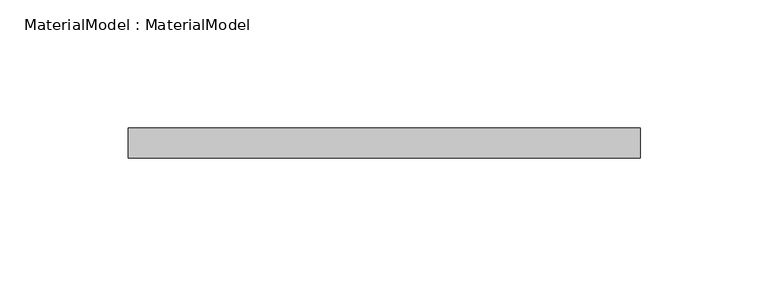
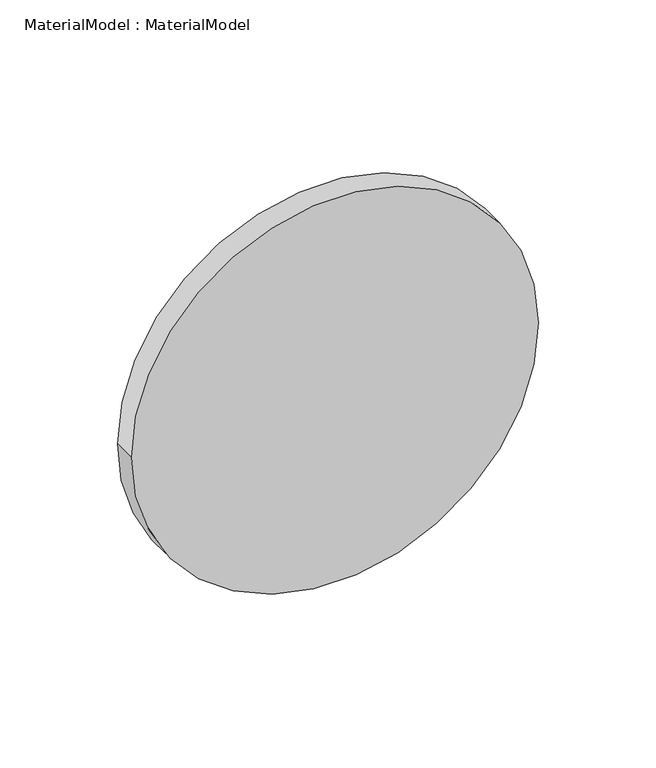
"""IFC4 building model written with IfcOpenShell, lengths in millimetres: proxy geometry, MaterialModel : MaterialModel."""

from ifc_helpers import new_model, si_unit, point, frame, frame_2d, origin, place, context, project, spatial, circle_curve, trimmed, segment, composite_curve, outline, extrude, source, transform, mapped, element, save


def materialmodel_materialmodel_41144b76(model_context):
    return source(origin(), model_context, "Body", "SweptSolid", [
        extrude(outline(composite_curve([segment(trimmed(circle_curve(frame_2d((75.0, 0.0)), 100.0), [point((75.0, -100.0))], [point((75.0, 100.0))], False, "CARTESIAN"), True, "CONTINUOUS"), segment(trimmed(circle_curve(frame_2d((75.0, 0.0)), 100.0), [point((75.0, 100.0))], [point((75.0, -100.0))], False, "CARTESIAN"), True, "CONTINUOUS")], self_intersect=False)), frame((0.0, -11.8565782, 0.0), z_axis=(0.0, 1.0, 0.0), x_axis=(0.0, 0.0, 1.0)), (0.0, 0.0, 1.0), 11.8565782),
    ])


if __name__ == "__main__":
    model = new_model("IFC4")
    model_context = context("Model", 3, world=origin())
    ifc_project = project(units=[si_unit("LENGTHUNIT", "METRE", prefix="MILLI")], contexts=[model_context])
    site = spatial("IfcSite", under=ifc_project)
    building = spatial("IfcBuilding", under=site)
    placement = place(None, origin())
    materialmodel_materialmodel_shape = materialmodel_materialmodel_41144b76(model_context)
    element("IfcBuildingElementProxy", 1, Name="MaterialModel : MaterialModel", ObjectType="MaterialModel : MaterialModel", at=placement, inside=building, context=model_context, shape_type="MappedRepresentation", body=[
        mapped(materialmodel_materialmodel_shape, transform((0.0, 0.0, 0.0), x_axis=(1.0, 0.0, 0.0), y_axis=(0.0, 1.0, 0.0), z_axis=(0.0, 0.0, 1.0))),
    ])
    save(model, "model.ifc")
